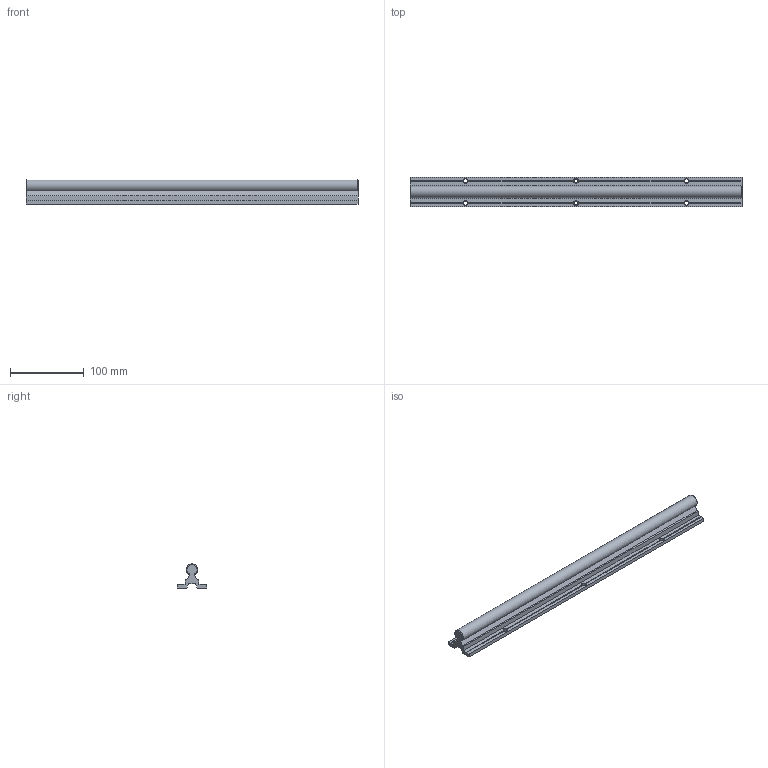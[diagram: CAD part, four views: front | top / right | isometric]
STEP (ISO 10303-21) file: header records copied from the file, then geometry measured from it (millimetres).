
FILE_DESCRIPTION(/* description */ (''),/* implementation_level */ '2;1');
FILE_NAME(/* name */ 'C:\Users\David\Desktop\stepFiles\Profilfuehrung\LFS16x450.stp',/* time_stamp */ '2018-06-24T15:18:11+02:00',/* author */ ('Buskamp'),/* organization */ (''),/* preprocessor_version */ 'ST-DEVELOPER v17',/* originating_system */ 'Autodesk Inventor 2019',/* authorisation */ '');
FILE_SCHEMA (('AUTOMOTIVE_DESIGN { 1 0 10303 214 3 1 1 }'));
Length unit declared in the file: millimetre
Products named in the file (1): Linearführung D16xvariabel
Bounding box: 450 x 40 x 32.97 mm (x, y, z)
Volume: 229775.9 mm3; surface area: 71311.5 mm2
Topology: 1 solids, 1 shells, 64 faces, 186 edges, 118 vertices
Faces by surface type: plane 43, cone 14, cylinder 7
Full cylindrical faces by diameter (mm): 5.5 x6
Entity records: 2139 total; most frequent: CARTESIAN_POINT 425, ORIENTED_EDGE 372, DIRECTION 346, EDGE_CURVE 186, AXIS2_PLACEMENT_3D 123, VERTEX_POINT 118, LINE 100, VECTOR 100
